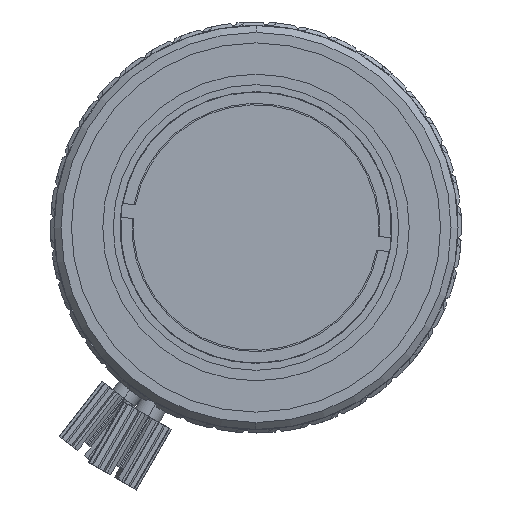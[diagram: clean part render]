
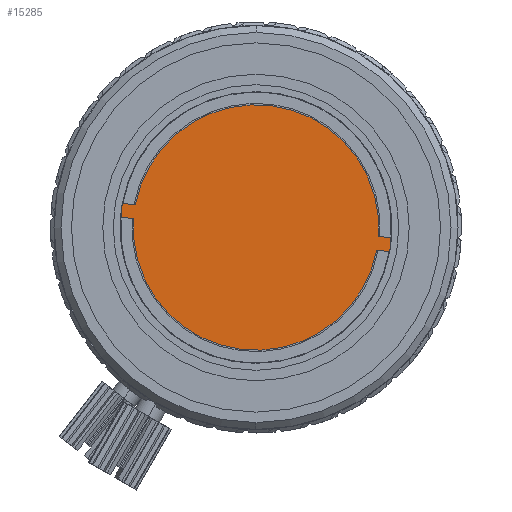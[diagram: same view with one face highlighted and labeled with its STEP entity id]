
A CAD part, left-side view. The second image highlights one B-rep face of the part: STEP entity #15285.
In plain terms, the highlighted planar face has unit normal (-1, 0, 0).
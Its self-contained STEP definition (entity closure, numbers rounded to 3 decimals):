
#3868=CARTESIAN_POINT('',(-26.814,0.,0.));
#3869=DIRECTION('',(1.,0.,0.));
#3870=DIRECTION('',(0.,0.997,0.077));
#3871=AXIS2_PLACEMENT_3D('',#3868,#3869,#3870);
#3873=DIRECTION('',(0.,0.992,0.128));
#3874=VECTOR('',#3873,0.942);
#3875=CARTESIAN_POINT('',(-26.814,8.659,1.622));
#3876=LINE('',#3875,#3874);
#3877=CARTESIAN_POINT('',(-26.814,0.,
0.));
#3878=DIRECTION('',(1.,0.,0.));
#3879=DIRECTION('',(0.,0.983,0.184));
#3880=AXIS2_PLACEMENT_3D('',#3877,#3878,#3879);
#3882=DIRECTION('',(0.,0.992,0.128));
#3883=VECTOR('',#3882,0.942);
#3884=CARTESIAN_POINT('',(-26.814,-9.721,
-0.75));
#3885=LINE('',#3884,#3883);
#3886=CARTESIAN_POINT('',(-26.814,0.,0.));
#3887=DIRECTION('',(1.,0.,0.));
#3888=DIRECTION('',(0.,-0.997,-0.077));
#3889=AXIS2_PLACEMENT_3D('',#3886,#3887,#3888);
#3891=DIRECTION('',(0.,-0.992,-0.128));
#3892=VECTOR('',#3891,0.942);
#3893=CARTESIAN_POINT('',(-26.814,-8.659,
-1.622));
#3894=LINE('',#3893,#3892);
#3895=DIRECTION('',(0.,-0.992,-0.128));
#3896=VECTOR('',#3895,0.942);
#3897=CARTESIAN_POINT('',(-26.814,9.721,
0.75));
#3898=LINE('',#3897,#3896);
#4271=CARTESIAN_POINT('',(-26.814,0.,
0.));
#4272=DIRECTION('',(-1.,0.,0.));
#4273=DIRECTION('',(0.,0.997,0.071));
#4274=AXIS2_PLACEMENT_3D('',#4271,#4272,#4273);
#10456=CARTESIAN_POINT('',(-26.814,8.659,
1.622));
#10457=CARTESIAN_POINT('',(-26.814,-8.787,
-0.63));
#10458=VERTEX_POINT('',#10456);
#10459=VERTEX_POINT('',#10457);
#10460=CARTESIAN_POINT('',(-26.814,-8.659,
-1.622));
#10461=VERTEX_POINT('',#10460);
#10462=CARTESIAN_POINT('',(-26.814,8.787,
0.63));
#10463=VERTEX_POINT('',#10462);
#10509=CARTESIAN_POINT('',(-26.814,-9.721,
-0.75));
#10511=VERTEX_POINT('',#10509);
#10516=CARTESIAN_POINT('',(-26.814,9.593,
1.742));
#10517=VERTEX_POINT('',#10516);
#10524=CARTESIAN_POINT('',(-26.814,-9.593,
-1.742));
#10525=VERTEX_POINT('',#10524);
#10526=CARTESIAN_POINT('',(-26.814,9.721,
0.75));
#10527=VERTEX_POINT('',#10526);
#15262=CARTESIAN_POINT('',(-26.814,0.,
0.));
#15263=DIRECTION('',(1.,0.,0.));
#15264=DIRECTION('',(0.,0.169,0.986));
#15265=AXIS2_PLACEMENT_3D('',#15262,#15263,#15264);
#15266=PLANE('',#15265);
#15268=ORIENTED_EDGE('',*,*,#15267,.T.);
#15270=ORIENTED_EDGE('',*,*,#15269,.F.);
#15272=ORIENTED_EDGE('',*,*,#15271,.T.);
#15274=ORIENTED_EDGE('',*,*,#15273,.F.);
#15276=ORIENTED_EDGE('',*,*,#15275,.T.);
#15278=ORIENTED_EDGE('',*,*,#15277,.F.);
#15280=ORIENTED_EDGE('',*,*,#15279,.F.);
#15282=ORIENTED_EDGE('',*,*,#15281,.F.);
#15283=EDGE_LOOP('',(#15268,#15270,#15272,#15274,#15276,#15278,#15280,#15282));
#15284=FACE_OUTER_BOUND('',#15283,.F.);
#15285=ADVANCED_FACE('',(#15284),#15266,.F.);
#3872=CIRCLE('',#3871,9.75);
#3881=CIRCLE('',#3880,8.809);
#3890=CIRCLE('',#3889,9.75);
#4275=CIRCLE('',#4274,8.809);
#15267=EDGE_CURVE('',#10527,#10517,#3872,.T.);
#15269=EDGE_CURVE('',#10458,#10517,#3876,.T.);
#15271=EDGE_CURVE('',#10458,#10459,#3881,.T.);
#15273=EDGE_CURVE('',#10511,#10459,#3885,.T.);
#15275=EDGE_CURVE('',#10511,#10525,#3890,.T.);
#15277=EDGE_CURVE('',#10461,#10525,#3894,.T.);
#15279=EDGE_CURVE('',#10463,#10461,#4275,.T.);
#15281=EDGE_CURVE('',#10527,#10463,#3898,.T.);
